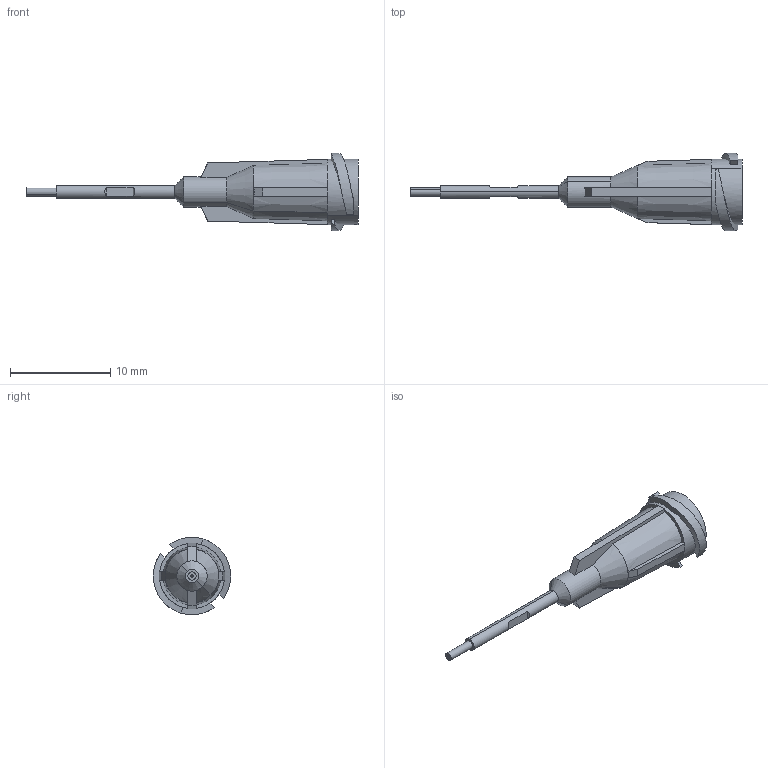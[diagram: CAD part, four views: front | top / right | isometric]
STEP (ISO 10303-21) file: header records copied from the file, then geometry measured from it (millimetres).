
FILE_DESCRIPTION (( 'STEP AP214' ), '1' );
FILE_NAME ('8001253_CUS.STEP', '2022-07-18T11:19:18', ( '' ), ( '' ), 'SwSTEP 2.0', 'SolidWorks 2020', '' );
FILE_SCHEMA (( 'AUTOMOTIVE_DESIGN' ));
Length unit declared in the file: millimetre
Products named in the file (1): 8001253_CUS
Bounding box: 33.07 x 7.7 x 7.7 mm (x, y, z)
Surface area: 696.3 mm2 (no closed solid volume)
Topology: 0 solids, 4 shells, 72 faces, 190 edges, 122 vertices
Faces by surface type: plane 42, cylinder 12, cone 12, bspline 6
Entity records: 3270 total; most frequent: CARTESIAN_POINT 759, ORIENTED_EDGE 352, DIRECTION 346, EDGE_CURVE 190, AXIS2_PLACEMENT_3D 131, VERTEX_POINT 122, LINE 84, VECTOR 84
